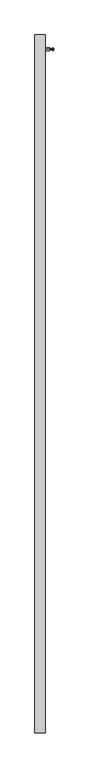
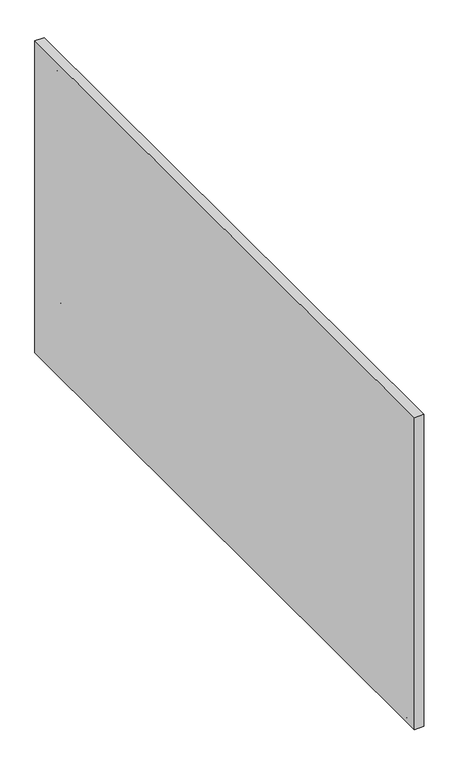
"""IFC4 building model written with IfcOpenShell, lengths in millimetres: furniture geometry, Geiger_GeigerOneCasegoods_VerticalGalleryPanelNoGlassNoCutOuts : Attaches Right."""

import ifcopenshell
import ifcopenshell.guid

model = None  # the IFC model being written
_history = None  # IfcOwnerHistory: only IFC2X3 demands one
_inside = {}  # id of a spatial element -> (the spatial element, [elements in it])
_under = {}  # id of a project, library or spatial element -> (it, [spatial elements below it])
_declared = {}  # id of a project -> (the project, [libraries it declares])
_typed = {}  # id of a type object -> (the type object, [elements of that type])
_made_of = {}  # id of a material, layer set ... -> (it, [elements and type objects made of it])


def new_model(schema):
    """Start an empty IFC model of exactly this schema.

    Asked for "IFC4X3", IfcOpenShell would pick the latest addendum, in which some entities
    have other attributes; the version numbers below select the first issue.
    IFC2X3 requires an IfcOwnerHistory on every rooted entity: one is made here for all.
    """
    global model, _history
    if schema == "IFC4X3":
        model = ifcopenshell.file(schema_version=(4, 3, 0, 0))
    else:
        model = ifcopenshell.file(schema=schema)
    _inside.clear()
    _under.clear()
    _declared.clear()
    _typed.clear()
    _made_of.clear()
    _history = None
    if model.schema == "IFC2X3":
        org = make("IfcOrganization", Name="unknown")
        user = make(
            "IfcPersonAndOrganization",
            ThePerson=make("IfcPerson", FamilyName="unknown"),
            TheOrganization=org,
        )
        app = make(
            "IfcApplication",
            ApplicationDeveloper=org,
            Version="unknown",
            ApplicationFullName="unknown",
            ApplicationIdentifier="unknown",
        )
        _history = make(
            "IfcOwnerHistory",
            OwningUser=user,
            OwningApplication=app,
            ChangeAction="ADDED",
            CreationDate=0,
        )
    return model


def make(cls, **values):
    """One entity of the class cls with the attributes given. An attribute that is None is left unset."""
    return model.create_entity(
        cls, **{name: value for name, value in values.items() if value is not None}
    )


def rooted(cls, **values):
    """An entity with a GlobalId (a new one), such as an element, a storey or a relation."""
    return make(cls, GlobalId=ifcopenshell.guid.new(), OwnerHistory=_history, **values)


def si_unit(unit_type, name, prefix=None):
    """IfcSIUnit, for example si_unit("LENGTHUNIT", "METRE", prefix="MILLI")."""
    return make("IfcSIUnit", UnitType=unit_type, Prefix=prefix, Name=name)


def assignment(units):
    """IfcUnitAssignment: the units of a project."""
    return None if units is None else make("IfcUnitAssignment", Units=units)


def point(xyz):
    """IfcCartesianPoint."""
    return None if xyz is None else make("IfcCartesianPoint", Coordinates=xyz)


def direction(xyz):
    """IfcDirection."""
    return None if xyz is None else make("IfcDirection", DirectionRatios=xyz)


def frame(location, z_axis=None, x_axis=None):
    """IfcAxis2Placement3D, a coordinate frame: its origin and axes. An axis left out is left unset."""
    return make(
        "IfcAxis2Placement3D",
        Location=point(location),
        Axis=direction(z_axis),
        RefDirection=direction(x_axis),
    )


def frame_2d(location, x_axis=None):
    """IfcAxis2Placement2D, a coordinate frame in the plane: its origin and x axis."""
    return make(
        "IfcAxis2Placement2D", Location=point(location), RefDirection=direction(x_axis)
    )


def origin():
    """The frame at (0, 0, 0) with its axes left unset."""
    return frame((0.0, 0.0, 0.0))


def origin_with_axes():
    """The frame at (0, 0, 0) with the z axis (0, 0, 1) and the x axis (1, 0, 0) written out."""
    return frame((0.0, 0.0, 0.0), z_axis=(0.0, 0.0, 1.0), x_axis=(1.0, 0.0, 0.0))


def place(relative_to, where):
    """IfcLocalPlacement: puts the frame where relative to a parent placement (None: the world)."""
    return make(
        "IfcLocalPlacement", PlacementRelTo=relative_to, RelativePlacement=where
    )


def context(
    kind, dimensions, precision=None, world=None, true_north=None, identifier=None
):
    """IfcGeometricRepresentationContext, for example the 3D "Model" context."""
    return make(
        "IfcGeometricRepresentationContext",
        ContextIdentifier=identifier,
        ContextType=kind,
        CoordinateSpaceDimension=dimensions,
        Precision=precision,
        WorldCoordinateSystem=world,
        TrueNorth=true_north,
    )


def project(units=None, contexts=None):
    """IfcProject with its units and contexts."""
    return rooted(
        "IfcProject",
        Name="project",
        RepresentationContexts=contexts,
        UnitsInContext=assignment(units),
    )


def spatial(cls, under=None, at=None, **own):
    """A site, building, storey or space (cls), placed at a placement, below another one or the project."""
    s = rooted(cls, ObjectPlacement=at, **own)
    if under is not None:
        _under.setdefault(under.id(), (under, []))[1].append(s)
    return s


def polyline(points):
    """IfcPolyline through the points."""
    return make("IfcPolyline", Points=[point(p) for p in points])


def circle_curve(where, radius):
    """IfcCircle in the frame where."""
    return make("IfcCircle", Position=where, Radius=radius)


def ellipse_curve(where, semi_axis1, semi_axis2):
    """IfcEllipse in the frame where."""
    return make(
        "IfcEllipse", Position=where, SemiAxis1=semi_axis1, SemiAxis2=semi_axis2
    )


def trimmed(basis, trim1, trim2, sense, master):
    """IfcTrimmedCurve: the piece of a basis curve between two trims."""
    return make(
        "IfcTrimmedCurve",
        BasisCurve=basis,
        Trim1=trim1,
        Trim2=trim2,
        SenseAgreement=sense,
        MasterRepresentation=master,
    )


def segment(curve, same_sense, transition):
    """IfcCompositeCurveSegment."""
    return make(
        "IfcCompositeCurveSegment",
        Transition=transition,
        SameSense=same_sense,
        ParentCurve=curve,
    )


def composite_curve(segments, self_intersect=None):
    """IfcCompositeCurve: segments joined end to end."""
    return make("IfcCompositeCurve", Segments=segments, SelfIntersect=self_intersect)


def outline(outer, holes=None, kind="AREA"):
    """IfcArbitraryClosedProfileDef: a profile drawn as a closed curve; with holes, ...WithVoids."""
    if holes is None:
        return make("IfcArbitraryClosedProfileDef", ProfileType=kind, OuterCurve=outer)
    return make(
        "IfcArbitraryProfileDefWithVoids",
        ProfileType=kind,
        OuterCurve=outer,
        InnerCurves=holes,
    )


def extrude(swept, where, along, depth):
    """IfcExtrudedAreaSolid: the profile swept, set in the frame where, extruded along a direction by depth."""
    return make(
        "IfcExtrudedAreaSolid",
        SweptArea=swept,
        Position=where,
        ExtrudedDirection=direction(along),
        Depth=depth,
    )


def shape(context_of_items, identifier, shape_type, items):
    """IfcShapeRepresentation: the items that make up one representation, for example the "Body"."""
    return make(
        "IfcShapeRepresentation",
        ContextOfItems=context_of_items,
        RepresentationIdentifier=identifier,
        RepresentationType=shape_type,
        Items=items,
    )


def source(mapping_origin, context_of_items, identifier, shape_type, items):
    """IfcRepresentationMap: a shape defined once, which mapped items show again and again."""
    return make(
        "IfcRepresentationMap",
        MappingOrigin=mapping_origin,
        MappedRepresentation=shape(context_of_items, identifier, shape_type, items),
    )


def transform(
    local_origin,
    x_axis=None,
    y_axis=None,
    z_axis=None,
    scale=None,
    scale2=None,
    scale3=None,
    uniform=True,
):
    """IfcCartesianTransformationOperator3D, or its non-uniform kind. x_axis, y_axis, z_axis: its Axis1, 2, 3."""
    if uniform:
        return make(
            "IfcCartesianTransformationOperator3D",
            Axis1=direction(x_axis),
            Axis2=direction(y_axis),
            LocalOrigin=point(local_origin),
            Scale=scale,
            Axis3=direction(z_axis),
        )
    return make(
        "IfcCartesianTransformationOperator3DnonUniform",
        Axis1=direction(x_axis),
        Axis2=direction(y_axis),
        LocalOrigin=point(local_origin),
        Scale=scale,
        Axis3=direction(z_axis),
        Scale2=scale2,
        Scale3=scale3,
    )


def mapped(mapping_source, mapping_target):
    """IfcMappedItem: shows the shape of a source again, moved by a transform."""
    return make(
        "IfcMappedItem", MappingSource=mapping_source, MappingTarget=mapping_target
    )


def made_of(thing, what):
    """Note that an element or type object is made of a material, layer set ...; save() writes the relation."""
    if what is not None:
        _made_of.setdefault(what.id(), (what, []))[1].append(thing)
    return thing


def element(
    cls,
    number,
    at=None,
    inside=None,
    cuts=None,
    type_object=None,
    material=None,
    context=None,
    identifier="Body",
    shape_type=None,
    held_by="IfcProductDefinitionShape",
    body=None,
    shapes=None,
    **own,
):
    """One element of the class cls, such as IfcWall. Its Tag is "e" and its number.

    at: its placement. inside: the storey or other place that contains it. cuts: it is an
    opening in that element (IfcRelVoidsElement). A single representation is given by context,
    identifier, shape_type and body (its items); several are given by shapes. held_by: the class
    of the entity that holds the representations. save() writes the other relations.
    """
    e = rooted(cls, Tag="e%d" % number, ObjectPlacement=at, **own)
    if body is not None:
        shapes = [shape(context, identifier, shape_type, body)]
    if shapes is not None:
        e.Representation = make(held_by, Representations=shapes)
    if inside is not None:
        _inside.setdefault(inside.id(), (inside, []))[1].append(e)
    if cuts is not None:
        rooted(
            "IfcRelVoidsElement", RelatingBuildingElement=cuts, RelatedOpeningElement=e
        )
    if type_object is not None:
        _typed.setdefault(type_object.id(), (type_object, []))[1].append(e)
    return made_of(e, material)


def aggregate(whole, parts):
    """IfcRelAggregates: a whole, such as a stair, and the parts it consists of."""
    return rooted("IfcRelAggregates", RelatingObject=whole, RelatedObjects=parts)


def save(model, path):
    """Write the relations noted so far, then the file.

    IfcRelAggregates (storeys below a building ...), IfcRelContainedInSpatialStructure (elements
    in a storey), IfcRelDefinesByType, IfcRelAssociatesMaterial and IfcRelDeclares: one each for
    every whole, place, type object, material and project.
    """
    for whole, parts in _under.values():
        aggregate(whole, parts)
    for where, things in _inside.values():
        rooted(
            "IfcRelContainedInSpatialStructure",
            RelatedElements=things,
            RelatingStructure=where,
        )
    for kind, things in _typed.values():
        rooted("IfcRelDefinesByType", RelatedObjects=things, RelatingType=kind)
    for what, things in _made_of.values():
        rooted("IfcRelAssociatesMaterial", RelatedObjects=things, RelatingMaterial=what)
    for by, libraries in _declared.values():
        rooted("IfcRelDeclares", RelatingContext=by, RelatedDefinitions=libraries)
    model.write(path)


def plane_surface(at):
    """IfcPlane: the flat surface through the origin of the frame at, square to its z axis."""
    return make("IfcPlane", Position=at)


def cylinder_surface(at, radius):
    """IfcCylindricalSurface: all points at the distance radius from the z axis of the frame at."""
    return make("IfcCylindricalSurface", Position=at, Radius=radius)


def revolved_surface(curve, axis_point, axis_direction):
    """IfcSurfaceOfRevolution: the curve turned about the line through axis_point along axis_direction."""
    return make(
        "IfcSurfaceOfRevolution",
        SweptCurve=make("IfcArbitraryOpenProfileDef", ProfileType="CURVE", Curve=curve),
        AxisPosition=make("IfcAxis1Placement", Location=point(axis_point), Axis=direction(axis_direction)),
    )


def advanced_brep(points, edges, surfaces, faces):
    """IfcAdvancedBrep: a solid bounded by faces that lie on surfaces and meet in shared edges.

    An edge is (start, end): straight between two places in points (the first is 0);
    or (start, end, curve); or (start, end, curve, False) where it runs against its curve.
    A face is (place in surfaces, loops), or (place, loops, False) where it looks against
    its surface's normal. A loop lists edges by number (the first is 1), with a minus sign
    where the edge is run from its end to its start. The first loop is the outer one.
    """
    corners = [point(p) for p in points]
    vertices = [make("IfcVertexPoint", VertexGeometry=c) for c in corners]
    made = []
    for start, end, *more in edges:
        made.append(
            make(
                "IfcEdgeCurve",
                EdgeStart=vertices[start],
                EdgeEnd=vertices[end],
                EdgeGeometry=more[0] if more else make("IfcPolyline", Points=[corners[start], corners[end]]),
                SameSense=more[1] if len(more) > 1 else True,
            )
        )
    hull = []
    for where, loops, *sense in faces:
        bounds = []
        for j, loop in enumerate(loops):
            ring = [make("IfcOrientedEdge", EdgeElement=made[abs(k) - 1], Orientation=k > 0) for k in loop]
            bounds.append(
                make(
                    "IfcFaceOuterBound" if j == 0 else "IfcFaceBound",
                    Bound=make("IfcEdgeLoop", EdgeList=ring),
                    Orientation=True,
                )
            )
        hull.append(make("IfcAdvancedFace", Bounds=bounds, FaceSurface=surfaces[where], SameSense=sense[0] if sense else True))
    return make("IfcAdvancedBrep", Outer=make("IfcClosedShell", CfsFaces=hull))


def furniture_624d239f(model_context):
    return source(origin(), model_context, "Body", "SolidModel", [
        advanced_brep(
        [(16.5, -2218.5017944, -3.3), (11.6687545, -2218.5017944, -3.3), (21.3312455, -2218.5017944, -3.3), (11.6687545, -2218.5017944, -12.7000041), (21.3312455, -2218.5017944, -12.7000041), (16.5, -2218.5017944, -12.7000041)],
        [
            (0, 1),
            (1, 2, circle_curve(frame((16.5, -2218.5017944, -3.3), z_axis=(0.0, 0.0, 1.0), x_axis=(-1.0, 0.0, 0.0)), 4.8312455)),
            (2, 0),
            (2, 1, circle_curve(frame((16.5, -2218.5017944, -3.3), z_axis=(0.0, 0.0, 1.0), x_axis=(-1.0, 0.0, 0.0)), 4.8312455)),
            (1, 3, circle_curve(frame((11.6687545, -2218.5017944, -8.0000021), z_axis=(0.0, -1.0, 0.0), x_axis=(1.0, 0.0, 0.0)), 4.7000021)),
            (3, 4, circle_curve(frame((16.5, -2218.5017944, -12.7000041), z_axis=(0.0, 0.0, 1.0), x_axis=(-1.0, 0.0, 0.0)), 4.8312455)),
            (4, 2, circle_curve(frame((21.3312455, -2218.5017944, -8.0000021), z_axis=(0.0, -1.0, 0.0), x_axis=(-1.0, 0.0, 0.0)), 4.7000021)),
            (4, 3, circle_curve(frame((16.5, -2218.5017944, -12.7000041), z_axis=(0.0, 0.0, 1.0), x_axis=(-1.0, 0.0, 0.0)), 4.8312455)),
            (3, 5),
            (5, 4),
        ],
        [
            plane_surface(frame((16.5, -2218.5017944, -3.3), z_axis=(0.0, 0.0, 1.0), x_axis=(-1.0, 0.0, 0.0))),
            revolved_surface(trimmed(ellipse_curve(frame((11.6687545, -2218.5017944, -8.0000021), z_axis=(0.0, 1.0, 0.0), x_axis=(1.0, 0.0, 0.0)), 4.7000021, 4.7000021), [point((11.6687545, -2218.5017944, -12.7000041))], [point((11.6687545, -2218.5017944, -3.3))], True, "CARTESIAN"), (16.5, -2218.5017944, -3.3), (0.0, 0.0, 1.0)),
            plane_surface(frame((16.5, -2218.5017944, -12.7000041), z_axis=(0.0, 0.0, -1.0), x_axis=(-1.0, 0.0, 0.0))),
        ],
        [
            (0, [[1, 2, 3]]),
            (0, [[-3, 4, -1]]),
            (1, [[-2, 5, 6, 7]]),
            (1, [[-4, -7, 8, -5]]),
            (2, [[-6, 9, 10]]),
            (2, [[-8, -10, -9]]),
        ],
    ),
        extrude(outline(composite_curve([segment(trimmed(circle_curve(frame_2d((16.5, -2251.75)), 7.0), [point((23.5, -2251.75))], [point((9.5, -2251.75))], False, "CARTESIAN"), True, "CONTINUOUS"), segment(polyline([(9.5, -2251.75), (9.5, -2185.25)]), True, "CONTINUOUS"), segment(trimmed(circle_curve(frame_2d((16.5, -2185.25)), 7.0), [point((9.5, -2185.25))], [point((23.5, -2185.25))], False, "CARTESIAN"), True, "CONTINUOUS"), segment(polyline([(23.5, -2185.25), (23.5, -2251.75)]), True, "CONTINUOUS")], self_intersect=False)), frame((0.0, 0.0, -3.3), z_axis=(0.0, 0.0, 1.0), x_axis=(1.0, 0.0, 0.0)), (0.0, 0.0, 1.0), 3.3),
        advanced_brep(
        [(16.5, -1141.25, -3.3), (11.7249672, -1141.25, -3.3), (21.2750328, -1141.25, -3.3), (11.7249672, -1141.25, -12.7000041), (21.2750328, -1141.25, -12.7000041), (16.5, -1141.25, -12.7000041)],
        [
            (0, 1),
            (1, 2, circle_curve(frame((16.5, -1141.25, -3.3), z_axis=(0.0, 0.0, 1.0), x_axis=(-1.0, 0.0, 0.0)), 4.7750328)),
            (2, 0),
            (2, 1, circle_curve(frame((16.5, -1141.25, -3.3), z_axis=(0.0, 0.0, 1.0), x_axis=(-1.0, 0.0, 0.0)), 4.7750328)),
            (1, 3, circle_curve(frame((11.7249672, -1141.25, -8.0000021), z_axis=(0.0, -1.0, 0.0), x_axis=(1.0, 0.0, 0.0)), 4.7000021)),
            (3, 4, circle_curve(frame((16.5, -1141.25, -12.7000041), z_axis=(0.0, 0.0, 1.0), x_axis=(-1.0, 0.0, 0.0)), 4.7750328)),
            (4, 2, circle_curve(frame((21.2750328, -1141.25, -8.0000021), z_axis=(0.0, -1.0, 0.0), x_axis=(-1.0, 0.0, 0.0)), 4.7000021)),
            (4, 3, circle_curve(frame((16.5, -1141.25, -12.7000041), z_axis=(0.0, 0.0, 1.0), x_axis=(-1.0, 0.0, 0.0)), 4.7750328)),
            (3, 5),
            (5, 4),
        ],
        [
            plane_surface(frame((16.5, -1141.25, -3.3), z_axis=(0.0, 0.0, 1.0), x_axis=(-1.0, 0.0, 0.0))),
            revolved_surface(trimmed(ellipse_curve(frame((11.7249672, -1141.25, -8.0000021), z_axis=(0.0, 1.0, 0.0), x_axis=(1.0, 0.0, 0.0)), 4.7000021, 4.7000021), [point((11.7249672, -1141.25, -12.7000041))], [point((11.7249672, -1141.25, -3.3))], True, "CARTESIAN"), (16.5, -1141.25, -3.3), (0.0, 0.0, 1.0)),
            plane_surface(frame((16.5, -1141.25, -12.7000041), z_axis=(0.0, 0.0, -1.0), x_axis=(-1.0, 0.0, 0.0))),
        ],
        [
            (0, [[1, 2, 3]]),
            (0, [[-3, 4, -1]]),
            (1, [[-2, 5, 6, 7]]),
            (1, [[-4, -7, 8, -5]]),
            (2, [[-6, 9, 10]]),
            (2, [[-8, -10, -9]]),
        ],
    ),
        extrude(outline(composite_curve([segment(trimmed(circle_curve(frame_2d((16.5, -1174.5)), 7.0), [point((23.5, -1174.5))], [point((9.5, -1174.5))], False, "CARTESIAN"), True, "CONTINUOUS"), segment(polyline([(9.5, -1174.5), (9.5, -1108.0)]), True, "CONTINUOUS"), segment(trimmed(circle_curve(frame_2d((16.5, -1108.0)), 7.0), [point((9.5, -1108.0))], [point((23.5, -1108.0))], False, "CARTESIAN"), True, "CONTINUOUS"), segment(polyline([(23.5, -1108.0), (23.5, -1174.5)]), True, "CONTINUOUS")], self_intersect=False)), frame((0.0, 0.0, -3.3), z_axis=(0.0, 0.0, 1.0), x_axis=(1.0, 0.0, 0.0)), (0.0, 0.0, 1.0), 3.3),
        extrude(outline(polyline([(0.0, 0.0), (33.0, 0.0), (33.0, -2282.5), (0.0, -2282.5), (0.0, 0.0)])), origin_with_axes(), (0.0, 0.0, 1.0), 1146.175),
        advanced_brep(
        [(16.5, -64.0, -12.7000041), (11.7454035, -64.0, -12.7000041), (21.2545965, -64.0, -12.7000041), (11.7454035, -64.0, -3.3), (21.2545965, -64.0, -3.3), (16.5, -64.0, -3.3)],
        [
            (0, 1),
            (1, 2, circle_curve(frame((16.5, -64.0, -12.7000041), z_axis=(0.0, 0.0, -1.0), x_axis=(-1.0, 0.0, 0.0)), 4.7545965)),
            (2, 0),
            (2, 1, circle_curve(frame((16.5, -64.0, -12.7000041), z_axis=(0.0, 0.0, -1.0), x_axis=(-1.0, 0.0, 0.0)), 4.7545965)),
            (1, 3, circle_curve(frame((11.7454035, -64.0, -8.0000021), z_axis=(0.0, 1.0, 0.0), x_axis=(-1.0, 0.0, 0.0)), 4.7000021)),
            (3, 4, circle_curve(frame((16.5, -64.0, -3.3), z_axis=(0.0, 0.0, -1.0), x_axis=(-1.0, 0.0, 0.0)), 4.7545965)),
            (4, 2, circle_curve(frame((21.2545965, -64.0, -8.0000021), z_axis=(0.0, 1.0, 0.0), x_axis=(1.0, 0.0, 0.0)), 4.7000021)),
            (4, 3, circle_curve(frame((16.5, -64.0, -3.3), z_axis=(0.0, 0.0, -1.0), x_axis=(-1.0, 0.0, 0.0)), 4.7545965)),
            (3, 5),
            (5, 4),
        ],
        [
            plane_surface(frame((16.5, -64.0, -12.7000041), z_axis=(0.0, 0.0, -1.0), x_axis=(-1.0, 0.0, 0.0))),
            revolved_surface(trimmed(ellipse_curve(frame((11.7454035, -64.0, -8.0000021), z_axis=(0.0, -1.0, 0.0), x_axis=(-1.0, 0.0, 0.0)), 4.7000021, 4.7000021), [point((11.7454035, -64.0, -3.3))], [point((11.7454035, -64.0, -12.7000041))], True, "CARTESIAN"), (16.5, -64.0, -3.3), (0.0, 0.0, -1.0)),
            plane_surface(frame((16.5, -64.0, -3.3), z_axis=(0.0, 0.0, 1.0), x_axis=(-1.0, 0.0, 0.0))),
        ],
        [
            (0, [[1, 2, 3]]),
            (0, [[-3, 4, -1]]),
            (1, [[-2, 5, 6, 7]]),
            (1, [[-4, -7, 8, -5]]),
            (2, [[-6, 9, 10]]),
            (2, [[-8, -10, -9]]),
        ],
    ),
        extrude(outline(composite_curve([segment(trimmed(circle_curve(frame_2d((16.5, -97.25)), 7.0), [point((23.5, -97.25))], [point((9.5, -97.25))], False, "CARTESIAN"), True, "CONTINUOUS"), segment(polyline([(9.5, -97.25), (9.5, -30.75)]), True, "CONTINUOUS"), segment(trimmed(circle_curve(frame_2d((16.5, -30.75)), 7.0), [point((9.5, -30.75))], [point((23.5, -30.75))], False, "CARTESIAN"), True, "CONTINUOUS"), segment(polyline([(23.5, -30.75), (23.5, -97.25)]), True, "CONTINUOUS")], self_intersect=False)), frame((0.0, 0.0, -3.3), z_axis=(0.0, 0.0, 1.0), x_axis=(1.0, 0.0, 0.0)), (0.0, 0.0, 1.0), 3.3),
        advanced_brep(
        [(33.0, -46.8916519, 1043.1940679), (33.0, -46.8916519, 1052.2059321), (33.0, -46.8916519, 1047.7), (47.9967305, -46.8916519, 1043.1940679), (47.9967305, -46.8916519, 1052.2059321), (49.4999948, -46.8916519, 1044.121261), (49.4999948, -46.8916519, 1051.278739), (49.4999948, -46.8916519, 1045.1913127), (49.4999948, -46.8916519, 1050.2086873), (50.1303404, -46.8916519, 1045.8216583), (50.1303404, -46.8916519, 1049.5783417), (56.4803404, -46.8916519, 1045.8216583), (56.4803404, -46.8916519, 1049.5783417), (57.6843002, -46.8916519, 1043.8696704), (57.6843002, -46.8916519, 1051.5303296), (58.561461, -46.8916519, 1043.5475091), (58.561461, -46.8916519, 1051.8524909), (61.0118204, -46.8916519, 1044.3436791), (61.0118204, -46.8916519, 1051.0563209), (61.501439, -46.8916519, 1045.0175814), (61.501439, -46.8916519, 1050.3824186), (61.501439, -46.8916519, 1047.7)],
        [
            (0, 1, circle_curve(frame((33.0, -46.8916519, 1047.7), z_axis=(-1.0, 0.0, 0.0), x_axis=(0.0, 0.0, 1.0)), 4.5059321)),
            (1, 2),
            (2, 0),
            (1, 0, circle_curve(frame((33.0, -46.8916519, 1047.7), z_axis=(-1.0, 0.0, 0.0), x_axis=(0.0, 0.0, 1.0)), 4.5059321)),
            (3, 4, circle_curve(frame((47.9967305, -46.8916519, 1047.7), z_axis=(-1.0, 0.0, 0.0), x_axis=(0.0, 0.0, 1.0)), 4.5059321)),
            (4, 1),
            (0, 3),
            (4, 3, circle_curve(frame((47.9967305, -46.8916519, 1047.7), z_axis=(-1.0, 0.0, 0.0), x_axis=(0.0, 0.0, 1.0)), 4.5059321)),
            (5, 6, circle_curve(frame((49.4999948, -46.8916519, 1047.7), z_axis=(-1.0, 0.0, 0.0), x_axis=(0.0, 0.0, 1.0)), 3.578739)),
            (6, 4),
            (3, 5),
            (6, 5, circle_curve(frame((49.4999948, -46.8916519, 1047.7), z_axis=(-1.0, 0.0, 0.0), x_axis=(0.0, 0.0, 1.0)), 3.578739)),
            (7, 8, circle_curve(frame((49.4999948, -46.8916519, 1047.7), z_axis=(-1.0, 0.0, 0.0), x_axis=(0.0, 0.0, 1.0)), 2.5086873)),
            (8, 6),
            (5, 7),
            (8, 7, circle_curve(frame((49.4999948, -46.8916519, 1047.7), z_axis=(-1.0, 0.0, 0.0), x_axis=(0.0, 0.0, 1.0)), 2.5086873)),
            (9, 10, circle_curve(frame((50.1303404, -46.8916519, 1047.7), z_axis=(-1.0, 0.0, 0.0), x_axis=(0.0, 0.0, 1.0)), 1.8783417)),
            (10, 8),
            (7, 9),
            (10, 9, circle_curve(frame((50.1303404, -46.8916519, 1047.7), z_axis=(-1.0, 0.0, 0.0), x_axis=(0.0, 0.0, 1.0)), 1.8783417)),
            (11, 12, circle_curve(frame((56.4803404, -46.8916519, 1047.7), z_axis=(-1.0, 0.0, 0.0), x_axis=(0.0, 0.0, 1.0)), 1.8783417)),
            (12, 10),
            (9, 11),
            (12, 11, circle_curve(frame((56.4803404, -46.8916519, 1047.7), z_axis=(-1.0, 0.0, 0.0), x_axis=(0.0, 0.0, 1.0)), 1.8783417)),
            (13, 14, circle_curve(frame((57.6843002, -46.8916519, 1047.7), z_axis=(-1.0, 0.0, 0.0), x_axis=(0.0, 0.0, 1.0)), 3.8303296)),
            (14, 12),
            (11, 13),
            (14, 13, circle_curve(frame((57.6843002, -46.8916519, 1047.7), z_axis=(-1.0, 0.0, 0.0), x_axis=(0.0, 0.0, 1.0)), 3.8303296)),
            (15, 16, circle_curve(frame((58.561461, -46.8916519, 1047.7), z_axis=(-1.0, 0.0, 0.0), x_axis=(0.0, 0.0, 1.0)), 4.1524909)),
            (16, 14, circle_curve(frame((58.3278193, -46.8916519, 1051.1334157), z_axis=(0.0, -1.0, 0.0), x_axis=(1.0, 0.0, 0.0)), 0.7560804)),
            (13, 15, circle_curve(frame((58.3278193, -46.8916519, 1044.2665843), z_axis=(0.0, -1.0, 0.0), x_axis=(1.0, 0.0, 0.0)), 0.7560804)),
            (16, 15, circle_curve(frame((58.561461, -46.8916519, 1047.7), z_axis=(-1.0, 0.0, 0.0), x_axis=(0.0, 0.0, 1.0)), 4.1524909)),
            (17, 18, circle_curve(frame((61.0118204, -46.8916519, 1047.7), z_axis=(-1.0, 0.0, 0.0), x_axis=(0.0, 0.0, 1.0)), 3.3563209)),
            (18, 16),
            (15, 17),
            (18, 17, circle_curve(frame((61.0118204, -46.8916519, 1047.7), z_axis=(-1.0, 0.0, 0.0), x_axis=(0.0, 0.0, 1.0)), 3.3563209)),
            (19, 20, circle_curve(frame((61.501439, -46.8916519, 1047.7), z_axis=(-1.0, 0.0, 0.0), x_axis=(0.0, 0.0, 1.0)), 2.6824186)),
            (20, 18, circle_curve(frame((60.7928563, -46.8916519, 1050.3824186), z_axis=(0.0, -1.0, 0.0), x_axis=(1.0, 0.0, 0.0)), 0.7085827)),
            (17, 19, circle_curve(frame((60.7928563, -46.8916519, 1045.0175814), z_axis=(0.0, -1.0, 0.0), x_axis=(1.0, 0.0, 0.0)), 0.7085827)),
            (20, 19, circle_curve(frame((61.501439, -46.8916519, 1047.7), z_axis=(-1.0, 0.0, 0.0), x_axis=(0.0, 0.0, 1.0)), 2.6824186)),
            (21, 20),
            (19, 21),
        ],
        [
            plane_surface(frame((33.0, -46.8916519, 1047.7), z_axis=(-1.0, 0.0, 0.0), x_axis=(0.0, 0.0, 1.0))),
            cylinder_surface(frame((61.501439, -46.8916519, 1047.7), z_axis=(1.0, 0.0, 0.0), x_axis=(0.0, 0.0, 1.0)), 4.5059321),
            revolved_surface(polyline([(47.9967305, -46.8916519, 1052.2059321), (49.4999948, -46.8916519, 1051.278739)]), (61.501439, -46.8916519, 1047.7), (1.0, 0.0, 0.0)),
            plane_surface(frame((49.4999948, -46.8916519, 1047.7), z_axis=(1.0, 0.0, 0.0), x_axis=(0.0, 0.0, 1.0))),
            revolved_surface(polyline([(49.4999948, -46.8916519, 1050.2086873), (50.1303404, -46.8916519, 1049.5783417)]), (61.501439, -46.8916519, 1047.7), (1.0, 0.0, 0.0)),
            cylinder_surface(frame((61.501439, -46.8916519, 1047.7), z_axis=(1.0, 0.0, 0.0), x_axis=(0.0, 0.0, 1.0)), 1.8783417),
            revolved_surface(polyline([(56.4803404, -46.8916519, 1049.5783417), (57.6843002, -46.8916519, 1051.5303296)]), (61.501439, -46.8916519, 1047.7), (1.0, 0.0, 0.0)),
            revolved_surface(trimmed(ellipse_curve(frame((58.3278193, -46.8916519, 1051.1334157), z_axis=(0.0, 1.0, 0.0), x_axis=(1.0, 0.0, 0.0)), 0.7560804, 0.7560804), [point((57.6843002, -46.8916519, 1051.5303296))], [point((58.561461, -46.8916519, 1051.8524909))], True, "CARTESIAN"), (61.501439, -46.8916519, 1047.7), (1.0, 0.0, 0.0)),
            revolved_surface(polyline([(58.561461, -46.8916519, 1051.8524909), (61.0118204, -46.8916519, 1051.0563209)]), (61.501439, -46.8916519, 1047.7), (1.0, 0.0, 0.0)),
            revolved_surface(trimmed(ellipse_curve(frame((60.7928563, -46.8916519, 1050.3824186), z_axis=(0.0, 1.0, 0.0), x_axis=(1.0, 0.0, 0.0)), 0.7085827, 0.7085827), [point((61.0118204, -46.8916519, 1051.0563209))], [point((61.501439, -46.8916519, 1050.3824186))], True, "CARTESIAN"), (61.501439, -46.8916519, 1047.7), (1.0, 0.0, 0.0)),
            plane_surface(frame((61.501439, -46.8916519, 1047.7), z_axis=(1.0, 0.0, 0.0), x_axis=(0.0, 0.0, 1.0))),
        ],
        [
            (0, [[1, 2, 3]]),
            (0, [[4, -3, -2]]),
            (1, [[5, 6, -1, 7]]),
            (1, [[8, -7, -4, -6]]),
            (2, [[9, 10, -5, 11]]),
            (2, [[12, -11, -8, -10]]),
            (3, [[13, 14, -9, 15]]),
            (3, [[16, -15, -12, -14]]),
            (4, [[17, 18, -13, 19]]),
            (4, [[20, -19, -16, -18]]),
            (5, [[21, 22, -17, 23]]),
            (5, [[24, -23, -20, -22]]),
            (6, [[25, 26, -21, 27]]),
            (6, [[28, -27, -24, -26]]),
            (7, [[29, 30, -25, 31]]),
            (7, [[32, -31, -28, -30]]),
            (8, [[33, 34, -29, 35]]),
            (8, [[36, -35, -32, -34]]),
            (9, [[37, 38, -33, 39]]),
            (9, [[40, -39, -36, -38]]),
            (10, [[41, -37, 42]]),
            (10, [[-42, -40, -41]]),
        ],
    ),
        advanced_brep(
        [(33.0, -46.8916519, 185.9940679), (33.0, -46.8916519, 195.0059321), (33.0, -46.8916519, 190.5), (47.9967305, -46.8916519, 185.9940679), (47.9967305, -46.8916519, 195.0059321), (49.4999948, -46.8916519, 186.921261), (49.4999948, -46.8916519, 194.078739), (49.4999948, -46.8916519, 187.9913127), (49.4999948, -46.8916519, 193.0086873), (50.1303404, -46.8916519, 188.6216583), (50.1303404, -46.8916519, 192.3783417), (56.4803404, -46.8916519, 188.6216583), (56.4803404, -46.8916519, 192.3783417), (57.6843002, -46.8916519, 186.6696704), (57.6843002, -46.8916519, 194.3303296), (58.561461, -46.8916519, 186.3475091), (58.561461, -46.8916519, 194.6524909), (61.0118204, -46.8916519, 187.1436791), (61.0118204, -46.8916519, 193.8563209), (61.501439, -46.8916519, 187.8175814), (61.501439, -46.8916519, 193.1824186), (61.501439, -46.8916519, 190.5)],
        [
            (0, 1, circle_curve(frame((33.0, -46.8916519, 190.5), z_axis=(-1.0, 0.0, 0.0), x_axis=(0.0, 0.0, 1.0)), 4.5059321)),
            (1, 2),
            (2, 0),
            (1, 0, circle_curve(frame((33.0, -46.8916519, 190.5), z_axis=(-1.0, 0.0, 0.0), x_axis=(0.0, 0.0, 1.0)), 4.5059321)),
            (3, 4, circle_curve(frame((47.9967305, -46.8916519, 190.5), z_axis=(-1.0, 0.0, 0.0), x_axis=(0.0, 0.0, 1.0)), 4.5059321)),
            (4, 1),
            (0, 3),
            (4, 3, circle_curve(frame((47.9967305, -46.8916519, 190.5), z_axis=(-1.0, 0.0, 0.0), x_axis=(0.0, 0.0, 1.0)), 4.5059321)),
            (5, 6, circle_curve(frame((49.4999948, -46.8916519, 190.5), z_axis=(-1.0, 0.0, 0.0), x_axis=(0.0, 0.0, 1.0)), 3.578739)),
            (6, 4),
            (3, 5),
            (6, 5, circle_curve(frame((49.4999948, -46.8916519, 190.5), z_axis=(-1.0, 0.0, 0.0), x_axis=(0.0, 0.0, 1.0)), 3.578739)),
            (7, 8, circle_curve(frame((49.4999948, -46.8916519, 190.5), z_axis=(-1.0, 0.0, 0.0), x_axis=(0.0, 0.0, 1.0)), 2.5086873)),
            (8, 6),
            (5, 7),
            (8, 7, circle_curve(frame((49.4999948, -46.8916519, 190.5), z_axis=(-1.0, 0.0, 0.0), x_axis=(0.0, 0.0, 1.0)), 2.5086873)),
            (9, 10, circle_curve(frame((50.1303404, -46.8916519, 190.5), z_axis=(-1.0, 0.0, 0.0), x_axis=(0.0, 0.0, 1.0)), 1.8783417)),
            (10, 8),
            (7, 9),
            (10, 9, circle_curve(frame((50.1303404, -46.8916519, 190.5), z_axis=(-1.0, 0.0, 0.0), x_axis=(0.0, 0.0, 1.0)), 1.8783417)),
            (11, 12, circle_curve(frame((56.4803404, -46.8916519, 190.5), z_axis=(-1.0, 0.0, 0.0), x_axis=(0.0, 0.0, 1.0)), 1.8783417)),
            (12, 10),
            (9, 11),
            (12, 11, circle_curve(frame((56.4803404, -46.8916519, 190.5), z_axis=(-1.0, 0.0, 0.0), x_axis=(0.0, 0.0, 1.0)), 1.8783417)),
            (13, 14, circle_curve(frame((57.6843002, -46.8916519, 190.5), z_axis=(-1.0, 0.0, 0.0), x_axis=(0.0, 0.0, 1.0)), 3.8303296)),
            (14, 12),
            (11, 13),
            (14, 13, circle_curve(frame((57.6843002, -46.8916519, 190.5), z_axis=(-1.0, 0.0, 0.0), x_axis=(0.0, 0.0, 1.0)), 3.8303296)),
            (15, 16, circle_curve(frame((58.561461, -46.8916519, 190.5), z_axis=(-1.0, 0.0, 0.0), x_axis=(0.0, 0.0, 1.0)), 4.1524909)),
            (16, 14, circle_curve(frame((58.3278193, -46.8916519, 193.9334157), z_axis=(0.0, -1.0, 0.0), x_axis=(1.0, 0.0, 0.0)), 0.7560804)),
            (13, 15, circle_curve(frame((58.3278193, -46.8916519, 187.0665843), z_axis=(0.0, -1.0, 0.0), x_axis=(1.0, 0.0, 0.0)), 0.7560804)),
            (16, 15, circle_curve(frame((58.561461, -46.8916519, 190.5), z_axis=(-1.0, 0.0, 0.0), x_axis=(0.0, 0.0, 1.0)), 4.1524909)),
            (17, 18, circle_curve(frame((61.0118204, -46.8916519, 190.5), z_axis=(-1.0, 0.0, 0.0), x_axis=(0.0, 0.0, 1.0)), 3.3563209)),
            (18, 16),
            (15, 17),
            (18, 17, circle_curve(frame((61.0118204, -46.8916519, 190.5), z_axis=(-1.0, 0.0, 0.0), x_axis=(0.0, 0.0, 1.0)), 3.3563209)),
            (19, 20, circle_curve(frame((61.501439, -46.8916519, 190.5), z_axis=(-1.0, 0.0, 0.0), x_axis=(0.0, 0.0, 1.0)), 2.6824186)),
            (20, 18, circle_curve(frame((60.7928563, -46.8916519, 193.1824186), z_axis=(0.0, -1.0, 0.0), x_axis=(1.0, 0.0, 0.0)), 0.7085827)),
            (17, 19, circle_curve(frame((60.7928563, -46.8916519, 187.8175814), z_axis=(0.0, -1.0, 0.0), x_axis=(1.0, 0.0, 0.0)), 0.7085827)),
            (20, 19, circle_curve(frame((61.501439, -46.8916519, 190.5), z_axis=(-1.0, 0.0, 0.0), x_axis=(0.0, 0.0, 1.0)), 2.6824186)),
            (21, 20),
            (19, 21),
        ],
        [
            plane_surface(frame((33.0, -46.8916519, 190.5), z_axis=(-1.0, 0.0, 0.0), x_axis=(0.0, 0.0, 1.0))),
            cylinder_surface(frame((61.501439, -46.8916519, 190.5), z_axis=(1.0, 0.0, 0.0), x_axis=(0.0, 0.0, 1.0)), 4.5059321),
            revolved_surface(polyline([(47.9967305, -46.8916519, 195.0059321), (49.4999948, -46.8916519, 194.078739)]), (61.501439, -46.8916519, 190.5), (1.0, 0.0, 0.0)),
            plane_surface(frame((49.4999948, -46.8916519, 190.5), z_axis=(1.0, 0.0, 0.0), x_axis=(0.0, 0.0, 1.0))),
            revolved_surface(polyline([(49.4999948, -46.8916519, 193.0086873), (50.1303404, -46.8916519, 192.3783417)]), (61.501439, -46.8916519, 190.5), (1.0, 0.0, 0.0)),
            cylinder_surface(frame((61.501439, -46.8916519, 190.5), z_axis=(1.0, 0.0, 0.0), x_axis=(0.0, 0.0, 1.0)), 1.8783417),
            revolved_surface(polyline([(56.4803404, -46.8916519, 192.3783417), (57.6843002, -46.8916519, 194.3303296)]), (61.501439, -46.8916519, 190.5), (1.0, 0.0, 0.0)),
            revolved_surface(trimmed(ellipse_curve(frame((58.3278193, -46.8916519, 193.9334157), z_axis=(0.0, 1.0, 0.0), x_axis=(1.0, 0.0, 0.0)), 0.7560804, 0.7560804), [point((57.6843002, -46.8916519, 194.3303296))], [point((58.561461, -46.8916519, 194.6524909))], True, "CARTESIAN"), (61.501439, -46.8916519, 190.5), (1.0, 0.0, 0.0)),
            revolved_surface(polyline([(58.561461, -46.8916519, 194.6524909), (61.0118204, -46.8916519, 193.8563209)]), (61.501439, -46.8916519, 190.5), (1.0, 0.0, 0.0)),
            revolved_surface(trimmed(ellipse_curve(frame((60.7928563, -46.8916519, 193.1824186), z_axis=(0.0, 1.0, 0.0), x_axis=(1.0, 0.0, 0.0)), 0.7085827, 0.7085827), [point((61.0118204, -46.8916519, 193.8563209))], [point((61.501439, -46.8916519, 193.1824186))], True, "CARTESIAN"), (61.501439, -46.8916519, 190.5), (1.0, 0.0, 0.0)),
            plane_surface(frame((61.501439, -46.8916519, 190.5), z_axis=(1.0, 0.0, 0.0), x_axis=(0.0, 0.0, 1.0))),
        ],
        [
            (0, [[1, 2, 3]]),
            (0, [[4, -3, -2]]),
            (1, [[5, 6, -1, 7]]),
            (1, [[8, -7, -4, -6]]),
            (2, [[9, 10, -5, 11]]),
            (2, [[12, -11, -8, -10]]),
            (3, [[13, 14, -9, 15]]),
            (3, [[16, -15, -12, -14]]),
            (4, [[17, 18, -13, 19]]),
            (4, [[20, -19, -16, -18]]),
            (5, [[21, 22, -17, 23]]),
            (5, [[24, -23, -20, -22]]),
            (6, [[25, 26, -21, 27]]),
            (6, [[28, -27, -24, -26]]),
            (7, [[29, 30, -25, 31]]),
            (7, [[32, -31, -28, -30]]),
            (8, [[33, 34, -29, 35]]),
            (8, [[36, -35, -32, -34]]),
            (9, [[37, 38, -33, 39]]),
            (9, [[40, -39, -36, -38]]),
            (10, [[41, -37, 42]]),
            (10, [[-42, -40, -41]]),
        ],
    ),
    ])


if __name__ == "__main__":
    model = new_model("IFC4")
    model_context = context("Model", 3, world=origin())
    ifc_project = project(units=[si_unit("LENGTHUNIT", "METRE", prefix="MILLI")], contexts=[model_context])
    site = spatial("IfcSite", under=ifc_project)
    building = spatial("IfcBuilding", under=site)
    placement = place(None, origin())
    furniture_shape = furniture_624d239f(model_context)
    element("IfcFurniture", 1, ObjectType="Geiger_GeigerOneCasegoods_VerticalGalleryPanelNoGlassNoCutOuts : Attaches Right", at=placement, inside=building, context=model_context, shape_type="MappedRepresentation", body=[
        mapped(furniture_shape, transform((0.0, 0.0, 0.0), x_axis=(1.0, 0.0, 0.0), y_axis=(0.0, 1.0, 0.0), z_axis=(0.0, 0.0, 1.0))),
    ])
    save(model, "model.ifc")
